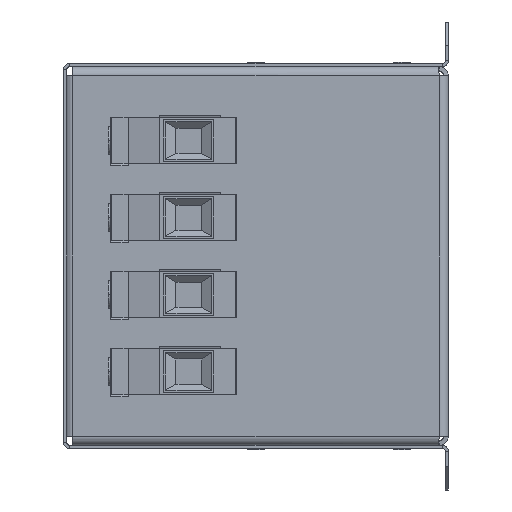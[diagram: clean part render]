
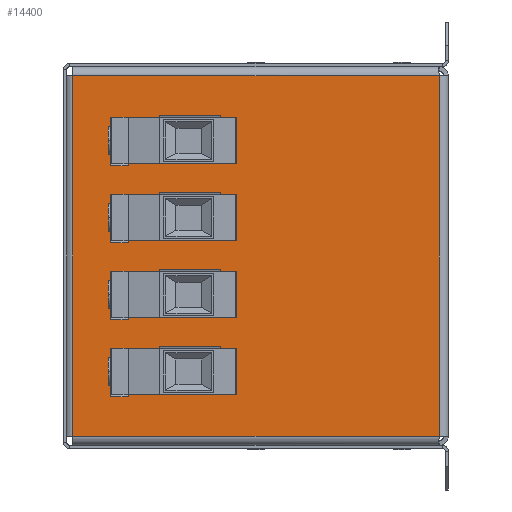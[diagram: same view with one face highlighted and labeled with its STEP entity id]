
A CAD part, left-side view. The second image highlights one B-rep face of the part: STEP entity #14400.
In plain terms, the highlighted planar face has unit normal (-1, 0, 0).
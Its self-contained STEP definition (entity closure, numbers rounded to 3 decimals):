
#251 = CARTESIAN_POINT ( 'NONE',  ( 0., 3., -120. ) ) ;
#458 = ORIENTED_EDGE ( 'NONE', *, *, #17396, .T. ) ;
#796 = VERTEX_POINT ( 'NONE', #8322 ) ;
#840 = DIRECTION ( 'NONE',  ( 0., 0., -1. ) ) ;
#906 = DIRECTION ( 'NONE',  ( 0., 0., -1. ) ) ;
#970 = DIRECTION ( 'NONE',  ( 1., 0., 0. ) ) ;
#1401 = DIRECTION ( 'NONE',  ( 0., 0., -1. ) ) ;
#1804 = CARTESIAN_POINT ( 'NONE',  ( 0., 90., -99. ) ) ;
#2010 = EDGE_CURVE ( 'NONE', #12163, #11202, #23718, .T. ) ;
#2080 = DIRECTION ( 'NONE',  ( 0., 0., -1. ) ) ;
#2122 = CARTESIAN_POINT ( 'NONE',  ( 0., 90., -30. ) ) ;
#2491 = FACE_BOUND ( 'NONE', #12141, .T. ) ;
#2620 = DIRECTION ( 'NONE',  ( 1., 0., 0. ) ) ;
#2668 = ORIENTED_EDGE ( 'NONE', *, *, #3626, .T. ) ;
#2758 = FACE_BOUND ( 'NONE', #3559, .T. ) ;
#3267 = EDGE_CURVE ( 'NONE', #17677, #19967, #25778, .T. ) ;
#3559 = EDGE_LOOP ( 'NONE', ( #2668, #4557 ) ) ;
#3626 = EDGE_CURVE ( 'NONE', #19967, #17677, #8907, .T. ) ;
#3804 = CARTESIAN_POINT ( 'NONE',  ( 0., 31.902, -3. ) ) ;
#4140 = CARTESIAN_POINT ( 'NONE',  ( 0., 90., -55. ) ) ;
#4214 = DIRECTION ( 'NONE',  ( 1., 0., 0. ) ) ;
#4557 = ORIENTED_EDGE ( 'NONE', *, *, #3267, .T. ) ;
#4928 = DIRECTION ( 'NONE',  ( 1., 0., 0. ) ) ;
#5052 = LINE ( 'NONE', #25911, #24373 ) ;
#5083 = DIRECTION ( 'NONE',  ( 1., 0., 0. ) ) ;
#5396 = CARTESIAN_POINT ( 'NONE',  ( 0., 90., -99. ) ) ;
#5714 = AXIS2_PLACEMENT_3D ( 'NONE', #25531, #4928, #19184 ) ;
#5804 = VERTEX_POINT ( 'NONE', #12252 ) ;
#5875 = AXIS2_PLACEMENT_3D ( 'NONE', #21590, #970, #840 ) ;
#6368 = EDGE_LOOP ( 'NONE', ( #458, #7701 ) ) ;
#6513 = EDGE_CURVE ( 'NONE', #5804, #25675, #20052, .T. ) ;
#6887 = EDGE_CURVE ( 'NONE', #11202, #12163, #13390, .T. ) ;
#7347 = ORIENTED_EDGE ( 'NONE', *, *, #22376, .T. ) ;
#7444 = AXIS2_PLACEMENT_3D ( 'NONE', #1804, #22285, #2080 ) ;
#7497 = VERTEX_POINT ( 'NONE', #20351 ) ;
#7508 = CIRCLE ( 'NONE', #7444, 6. ) ;
#7524 = CARTESIAN_POINT ( 'NONE',  ( 0., 90., -74. ) ) ;
#7701 = ORIENTED_EDGE ( 'NONE', *, *, #18523, .T. ) ;
#7826 = EDGE_CURVE ( 'NONE', #5804, #9310, #26562, .T. ) ;
#7973 = ORIENTED_EDGE ( 'NONE', *, *, #2010, .T. ) ;
#7993 = DIRECTION ( 'NONE',  ( 0., 0., 1. ) ) ;
#8322 = CARTESIAN_POINT ( 'NONE',  ( 0., 3., -3. ) ) ;
#8551 = VERTEX_POINT ( 'NONE', #4140 ) ;
#8860 = FACE_OUTER_BOUND ( 'NONE', #14813, .T. ) ;
#8907 = CIRCLE ( 'NONE', #5875, 6. ) ;
#9132 = ORIENTED_EDGE ( 'NONE', *, *, #6887, .T. ) ;
#9310 = VERTEX_POINT ( 'NONE', #13790 ) ;
#9403 = CARTESIAN_POINT ( 'NONE',  ( 0., 90., -93. ) ) ;
#9490 = DIRECTION ( 'NONE',  ( 0., -1., 0. ) ) ;
#9951 = VERTEX_POINT ( 'NONE', #14132 ) ;
#10448 = CIRCLE ( 'NONE', #13890, 6. ) ;
#10760 = PLANE ( 'NONE',  #17135 ) ;
#10882 = DIRECTION ( 'NONE',  ( 0., 0., -1. ) ) ;
#11202 = VERTEX_POINT ( 'NONE', #17798 ) ;
#11354 = CARTESIAN_POINT ( 'NONE',  ( 0., 90., -74. ) ) ;
#11385 = CARTESIAN_POINT ( 'NONE',  ( 0., 91.402, -120. ) ) ;
#11621 = DIRECTION ( 'NONE',  ( 1., 0., 0. ) ) ;
#12141 = EDGE_LOOP ( 'NONE', ( #7347, #19088 ) ) ;
#12163 = VERTEX_POINT ( 'NONE', #12311 ) ;
#12252 = CARTESIAN_POINT ( 'NONE',  ( 0., 122., -120. ) ) ;
#12311 = CARTESIAN_POINT ( 'NONE',  ( 0., 90., -80. ) ) ;
#12381 = AXIS2_PLACEMENT_3D ( 'NONE', #23662, #5083, #21624 ) ;
#12744 = CARTESIAN_POINT ( 'NONE',  ( 0., 90., -49. ) ) ;
#12911 = CARTESIAN_POINT ( 'NONE',  ( 0., 60.804, -61.5 ) ) ;
#13092 = VECTOR ( 'NONE', #13964, 1000. ) ;
#13390 = CIRCLE ( 'NONE', #24653, 6. ) ;
#13521 = DIRECTION ( 'NONE',  ( 0., 0., -1. ) ) ;
#13589 = CARTESIAN_POINT ( 'NONE',  ( 0., 90., -18. ) ) ;
#13790 = CARTESIAN_POINT ( 'NONE',  ( 0., 122., -3. ) ) ;
#13890 = AXIS2_PLACEMENT_3D ( 'NONE', #5396, #15554, #13521 ) ;
#13964 = DIRECTION ( 'NONE',  ( 0., 1., 0. ) ) ;
#14132 = CARTESIAN_POINT ( 'NONE',  ( 0., 90., -43. ) ) ;
#14375 = CIRCLE ( 'NONE', #5714, 6. ) ;
#14400 = ADVANCED_FACE ( 'NONE', ( #2758, #17256, #2491, #23352, #8860 ), #10760, .F. ) ;
#14813 = EDGE_LOOP ( 'NONE', ( #20621, #22072, #19908, #16826 ) ) ;
#14824 = CIRCLE ( 'NONE', #26491, 6. ) ;
#15554 = DIRECTION ( 'NONE',  ( 1., 0., 0. ) ) ;
#15794 = DIRECTION ( 'NONE',  ( 1., 0., 0. ) ) ;
#16361 = AXIS2_PLACEMENT_3D ( 'NONE', #7524, #15794, #1401 ) ;
#16821 = DIRECTION ( 'NONE',  ( 0., 0., -1. ) ) ;
#16826 = ORIENTED_EDGE ( 'NONE', *, *, #17638, .T. ) ;
#17135 = AXIS2_PLACEMENT_3D ( 'NONE', #12911, #2620, #10882 ) ;
#17256 = FACE_BOUND ( 'NONE', #6368, .T. ) ;
#17396 = EDGE_CURVE ( 'NONE', #7497, #22274, #7508, .T. ) ;
#17638 = EDGE_CURVE ( 'NONE', #25675, #796, #5052, .T. ) ;
#17677 = VERTEX_POINT ( 'NONE', #13589 ) ;
#17798 = CARTESIAN_POINT ( 'NONE',  ( 0., 90., -68. ) ) ;
#18523 = EDGE_CURVE ( 'NONE', #22274, #7497, #10448, .T. ) ;
#18701 = CARTESIAN_POINT ( 'NONE',  ( 0., 122., -123. ) ) ;
#19088 = ORIENTED_EDGE ( 'NONE', *, *, #22070, .T. ) ;
#19184 = DIRECTION ( 'NONE',  ( 0., 0., -1. ) ) ;
#19683 = DIRECTION ( 'NONE',  ( 0., 0., 1. ) ) ;
#19908 = ORIENTED_EDGE ( 'NONE', *, *, #6513, .T. ) ;
#19967 = VERTEX_POINT ( 'NONE', #2122 ) ;
#20052 = LINE ( 'NONE', #11385, #25500 ) ;
#20332 = LINE ( 'NONE', #3804, #13092 ) ;
#20351 = CARTESIAN_POINT ( 'NONE',  ( 0., 90., -105. ) ) ;
#20621 = ORIENTED_EDGE ( 'NONE', *, *, #23948, .T. ) ;
#21590 = CARTESIAN_POINT ( 'NONE',  ( 0., 90., -24. ) ) ;
#21624 = DIRECTION ( 'NONE',  ( 0., 0., -1. ) ) ;
#22070 = EDGE_CURVE ( 'NONE', #9951, #8551, #14375, .T. ) ;
#22072 = ORIENTED_EDGE ( 'NONE', *, *, #7826, .F. ) ;
#22274 = VERTEX_POINT ( 'NONE', #9403 ) ;
#22285 = DIRECTION ( 'NONE',  ( 1., 0., 0. ) ) ;
#22376 = EDGE_CURVE ( 'NONE', #8551, #9951, #14824, .T. ) ;
#23352 = FACE_BOUND ( 'NONE', #24979, .T. ) ;
#23662 = CARTESIAN_POINT ( 'NONE',  ( 0., 90., -24. ) ) ;
#23718 = CIRCLE ( 'NONE', #16361, 6. ) ;
#23948 = EDGE_CURVE ( 'NONE', #796, #9310, #20332, .T. ) ;
#24373 = VECTOR ( 'NONE', #19683, 1000. ) ;
#24653 = AXIS2_PLACEMENT_3D ( 'NONE', #11354, #11621, #906 ) ;
#24979 = EDGE_LOOP ( 'NONE', ( #7973, #9132 ) ) ;
#25500 = VECTOR ( 'NONE', #9490, 1000. ) ;
#25531 = CARTESIAN_POINT ( 'NONE',  ( 0., 90., -49. ) ) ;
#25675 = VERTEX_POINT ( 'NONE', #251 ) ;
#25778 = CIRCLE ( 'NONE', #12381, 6. ) ;
#25911 = CARTESIAN_POINT ( 'NONE',  ( 0., 3., -61.5 ) ) ;
#26085 = VECTOR ( 'NONE', #7993, 1000. ) ;
#26491 = AXIS2_PLACEMENT_3D ( 'NONE', #12744, #4214, #16821 ) ;
#26562 = LINE ( 'NONE', #18701, #26085 ) ;
